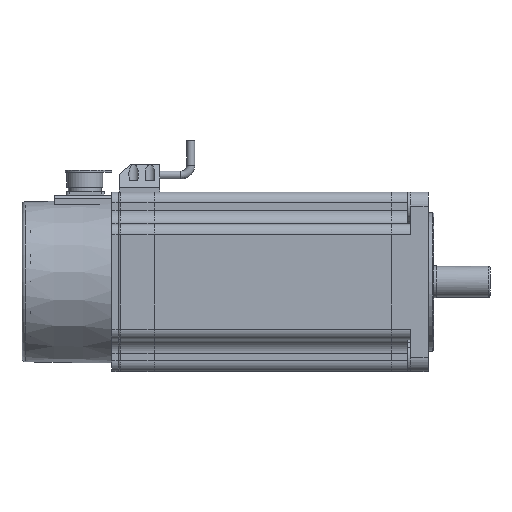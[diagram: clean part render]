
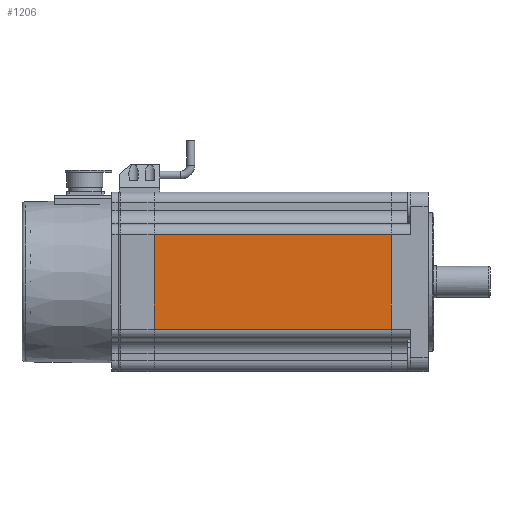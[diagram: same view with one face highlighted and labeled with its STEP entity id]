
A CAD part, left-side view. The second image highlights one B-rep face of the part: STEP entity #1206.
In plain terms, the highlighted planar face has unit normal (-1, 0, 0).
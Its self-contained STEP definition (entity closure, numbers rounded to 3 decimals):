
#1206=ADVANCED_FACE('',(#2026),#1573,.T.);
#1573=PLANE('',#11239);
#2026=FACE_OUTER_BOUND('',#2802,.T.);
#2802=EDGE_LOOP('',(#7594,#7595,#7596,#7597));
#3795=LINE('',#17294,#4815);
#3813=LINE('',#17377,#4833);
#3822=LINE('',#17402,#4842);
#3823=LINE('',#17404,#4843);
#4815=VECTOR('',#13918,1.);
#4833=VECTOR('',#13984,1.);
#4842=VECTOR('',#14017,1.);
#4843=VECTOR('',#14020,1.);
#7594=ORIENTED_EDGE('',*,*,#9952,.F.);
#7595=ORIENTED_EDGE('',*,*,#10004,.F.);
#7596=ORIENTED_EDGE('',*,*,#9993,.T.);
#7597=ORIENTED_EDGE('',*,*,#10005,.T.);
#8573=VERTEX_POINT('',#17293);
#8574=VERTEX_POINT('',#17295);
#8614=VERTEX_POINT('',#17376);
#8615=VERTEX_POINT('',#17378);
#9952=EDGE_CURVE('',#8573,#8574,#3795,.T.);
#9993=EDGE_CURVE('',#8615,#8614,#3813,.T.);
#10004=EDGE_CURVE('',#8615,#8573,#3822,.T.);
#10005=EDGE_CURVE('',#8614,#8574,#3823,.T.);
#11239=AXIS2_PLACEMENT_3D('',#17405,#14021,#14022);
#13918=DIRECTION('',(0.,0.,-1.));
#13984=DIRECTION('',(0.,0.,-1.));
#14017=DIRECTION('',(0.,-1.,0.));
#14020=DIRECTION('',(0.,-1.,0.));
#14021=DIRECTION('',(-1.,0.,0.));
#14022=DIRECTION('',(0.,-1.,0.));
#17293=CARTESIAN_POINT('',(198.892,-72.704,-73.25));
#17294=CARTESIAN_POINT('',(198.892,-72.704,-102.25));
#17295=CARTESIAN_POINT('',(198.892,-72.704,-131.25));
#17376=CARTESIAN_POINT('',(198.892,72.796,-131.25));
#17377=CARTESIAN_POINT('',(198.892,72.796,-102.25));
#17378=CARTESIAN_POINT('',(198.892,72.796,-73.25));
#17402=CARTESIAN_POINT('',(198.892,10.296,-73.25));
#17404=CARTESIAN_POINT('',(198.892,10.296,-131.25));
#17405=CARTESIAN_POINT('',(198.892,10.296,-102.25));
